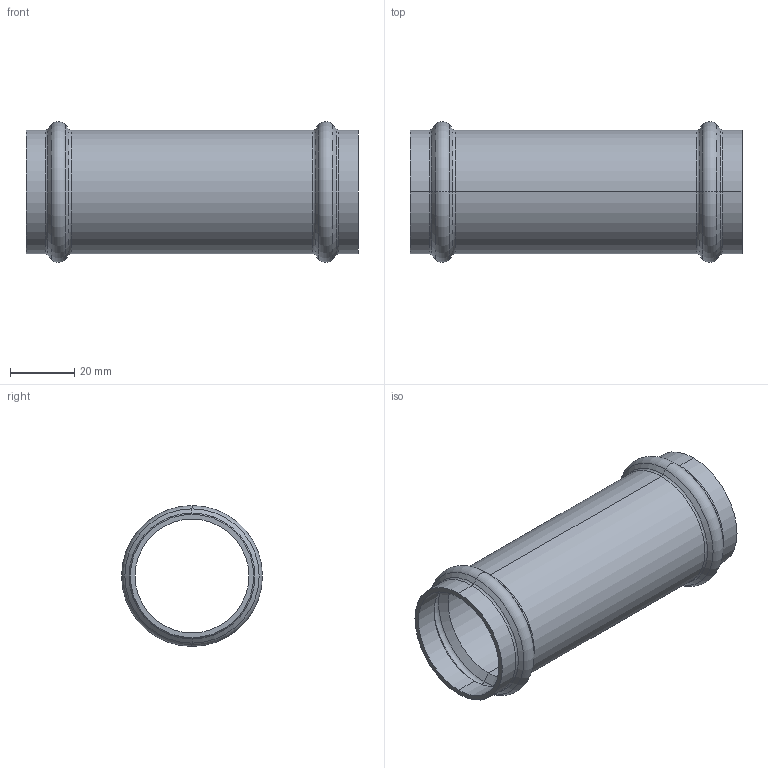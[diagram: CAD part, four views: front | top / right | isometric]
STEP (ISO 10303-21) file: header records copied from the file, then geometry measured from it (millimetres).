
FILE_DESCRIPTION (( 'STEP AP203' ), '1' );
FILE_NAME ('SP5275 35.STEP', '2017-04-24T09:23:12', ( '' ), ( '' ), 'SwSTEP 2.0', 'SolidWorks 2016', '' );
FILE_SCHEMA (( 'CONFIG_CONTROL_DESIGN' ));
Length unit declared in the file: millimetre
Products named in the file (1): SP5275 35
Bounding box: 103 x 43.7 x 43.7 mm (x, y, z)
Volume: 18619.7 mm3; surface area: 25576.7 mm2
Topology: 1 solids, 1 shells, 46 faces, 92 edges, 48 vertices
Faces by surface type: torus 16, cone 16, cylinder 12, plane 2
Entity records: 1261 total; most frequent: DIRECTION 250, CARTESIAN_POINT 187, ORIENTED_EDGE 184, AXIS2_PLACEMENT_3D 111, EDGE_CURVE 92, CIRCLE 64, EDGE_LOOP 48, VERTEX_POINT 48
